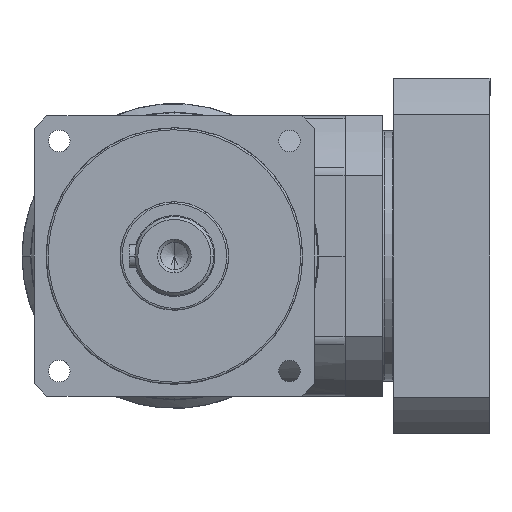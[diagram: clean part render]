
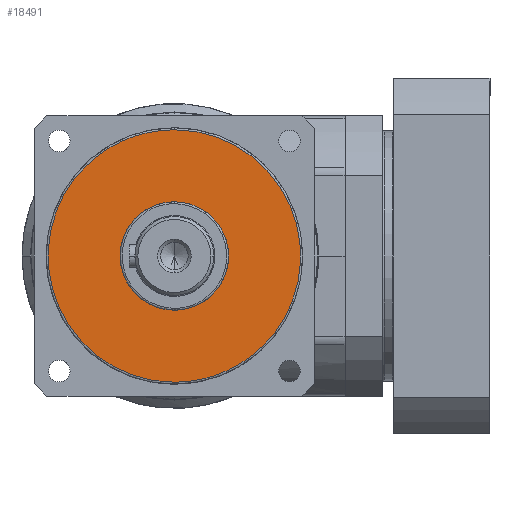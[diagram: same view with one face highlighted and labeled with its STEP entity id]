
A CAD part, left-side view. The second image highlights one B-rep face of the part: STEP entity #18491.
In plain terms, the highlighted planar face has unit normal (-1, 0, 0).
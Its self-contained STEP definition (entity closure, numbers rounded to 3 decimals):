
#1860 = CARTESIAN_POINT ( 'NONE',  ( -52.51, -2.68, 178. ) ) ;
#1928 = VERTEX_POINT ( 'NONE', #2675 ) ;
#1978 = CARTESIAN_POINT ( 'NONE',  ( -52.51, -2.68, 123. ) ) ;
#2100 = AXIS2_PLACEMENT_3D ( 'NONE', #47888, #27539, #35616 ) ;
#2392 = EDGE_CURVE ( 'NONE', #23505, #51775, #24635, .T. ) ;
#2675 = CARTESIAN_POINT ( 'NONE',  ( -52.51, -2.68, 86.5 ) ) ;
#3301 = CARTESIAN_POINT ( 'NONE',  ( -52.51, -2.68, 86.5 ) ) ;
#4416 =( BOUNDED_CURVE ( )  B_SPLINE_CURVE ( 3, ( #18737, #23148, #39107, #3301 ),
 .UNSPECIFIED., .F., .T. ) 
 B_SPLINE_CURVE_WITH_KNOTS ( ( 4, 4 ),
 ( 0., 1. ),
 .UNSPECIFIED. ) 
 CURVE ( )  GEOMETRIC_REPRESENTATION_ITEM ( )  RATIONAL_B_SPLINE_CURVE ( ( 1., 0.333, 0.333, 1. ) ) 
 REPRESENTATION_ITEM ( '' )  );
#5573 = EDGE_LOOP ( 'NONE', ( #26914, #8965 ) ) ;
#6285 = EDGE_LOOP ( 'NONE', ( #32918, #40502 ) ) ;
#7218 = EDGE_CURVE ( 'NONE', #46507, #1928, #4416, .T. ) ;
#8504 = CARTESIAN_POINT ( 'NONE',  ( -52.51, -2.68, 150.5 ) ) ;
#8965 = ORIENTED_EDGE ( 'NONE', *, *, #7218, .F. ) ;
#9484 = CARTESIAN_POINT ( 'NONE',  ( -52.51, 125.32, 214.5 ) ) ;
#11007 = DIRECTION ( 'NONE',  ( 0., 0., -1. ) ) ;
#11627 = AXIS2_PLACEMENT_3D ( 'NONE', #42387, #46860, #11007 ) ;
#18491 = ADVANCED_FACE ( 'NONE', ( #35973, #35710 ), #27888, .T. ) ;
#18737 = CARTESIAN_POINT ( 'NONE',  ( -52.51, -2.68, 214.5 ) ) ;
#20780 = CIRCLE ( 'NONE', #11627, 27.5 ) ;
#23148 = CARTESIAN_POINT ( 'NONE',  ( -52.51, -130.68, 214.5 ) ) ;
#23505 = VERTEX_POINT ( 'NONE', #1860 ) ;
#24635 = CIRCLE ( 'NONE', #2100, 27.5 ) ;
#25722 = CARTESIAN_POINT ( 'NONE',  ( -52.51, -2.68, 86.5 ) ) ;
#26914 = ORIENTED_EDGE ( 'NONE', *, *, #33142, .F. ) ;
#27539 = DIRECTION ( 'NONE',  ( 1., 0., 0. ) ) ;
#27888 = PLANE ( 'NONE',  #49621 ) ;
#28664 = DIRECTION ( 'NONE',  ( -1., 0., 0. ) ) ;
#32918 = ORIENTED_EDGE ( 'NONE', *, *, #39042, .T. ) ;
#33142 = EDGE_CURVE ( 'NONE', #1928, #46507, #46379, .T. ) ;
#33559 = CARTESIAN_POINT ( 'NONE',  ( -52.51, 125.32, 86.5 ) ) ;
#35537 = CARTESIAN_POINT ( 'NONE',  ( -52.51, -2.68, 214.5 ) ) ;
#35616 = DIRECTION ( 'NONE',  ( 0., 0., -1. ) ) ;
#35710 = FACE_BOUND ( 'NONE', #6285, .T. ) ;
#35973 = FACE_OUTER_BOUND ( 'NONE', #5573, .T. ) ;
#39042 = EDGE_CURVE ( 'NONE', #51775, #23505, #20780, .T. ) ;
#39107 = CARTESIAN_POINT ( 'NONE',  ( -52.51, -130.68, 86.5 ) ) ;
#40502 = ORIENTED_EDGE ( 'NONE', *, *, #2392, .T. ) ;
#42387 = CARTESIAN_POINT ( 'NONE',  ( -52.51, -2.68, 150.5 ) ) ;
#44555 = DIRECTION ( 'NONE',  ( 0., 0., 1. ) ) ;
#46379 =( BOUNDED_CURVE ( )  B_SPLINE_CURVE ( 3, ( #25722, #33559, #9484, #49244 ),
 .UNSPECIFIED., .F., .T. ) 
 B_SPLINE_CURVE_WITH_KNOTS ( ( 4, 4 ),
 ( 0., 1. ),
 .UNSPECIFIED. ) 
 CURVE ( )  GEOMETRIC_REPRESENTATION_ITEM ( )  RATIONAL_B_SPLINE_CURVE ( ( 1., 0.333, 0.333, 1. ) ) 
 REPRESENTATION_ITEM ( '' )  );
#46507 = VERTEX_POINT ( 'NONE', #35537 ) ;
#46860 = DIRECTION ( 'NONE',  ( 1., 0., 0. ) ) ;
#47888 = CARTESIAN_POINT ( 'NONE',  ( -52.51, -2.68, 150.5 ) ) ;
#49244 = CARTESIAN_POINT ( 'NONE',  ( -52.51, -2.68, 214.5 ) ) ;
#49621 = AXIS2_PLACEMENT_3D ( 'NONE', #8504, #28664, #44555 ) ;
#51775 = VERTEX_POINT ( 'NONE', #1978 ) ;
